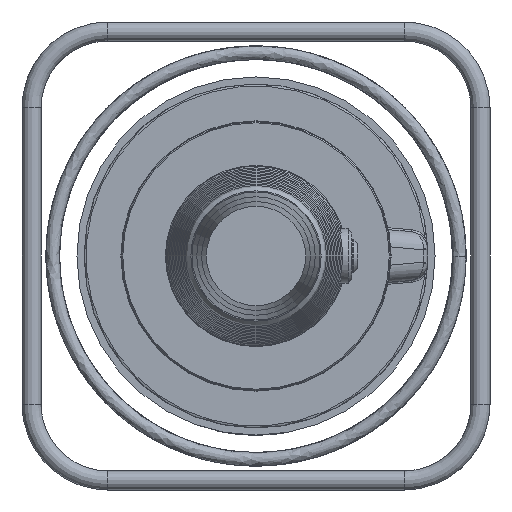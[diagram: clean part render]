
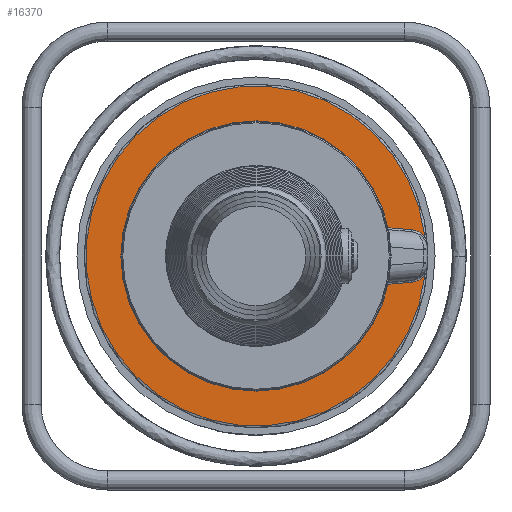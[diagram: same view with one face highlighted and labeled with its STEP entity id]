
A CAD part, left-side view. The second image highlights one B-rep face of the part: STEP entity #16370.
In plain terms, the highlighted planar face has unit normal (-1, 0, 0).
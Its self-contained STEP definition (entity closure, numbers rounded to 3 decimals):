
#1542=PLANE('',#17258);
#2444=LINE('',#36909,#3348);
#2445=LINE('',#36916,#3349);
#3348=VECTOR('',#19896,49.309);
#3349=VECTOR('',#19903,49.309);
#4496=FACE_OUTER_BOUND('',#5578,.T.);
#5578=EDGE_LOOP('',(#14309,#14310,#14311,#14312,#14313,#14314,#14315,#14316));
#6364=CIRCLE('',#17259,21.);
#6365=CIRCLE('',#17260,178.);
#6366=CIRCLE('',#17261,21.);
#6367=CIRCLE('',#17262,8.);
#6368=CIRCLE('',#17263,113.);
#6369=CIRCLE('',#17264,8.);
#7936=VERTEX_POINT('',#36901);
#7937=VERTEX_POINT('',#36902);
#7938=VERTEX_POINT('',#36904);
#7939=VERTEX_POINT('',#36906);
#7940=VERTEX_POINT('',#36908);
#7941=VERTEX_POINT('',#36910);
#7942=VERTEX_POINT('',#36912);
#7943=VERTEX_POINT('',#36914);
#10146=EDGE_CURVE('',#7936,#7937,#6364,.T.);
#10147=EDGE_CURVE('',#7938,#7936,#6365,.T.);
#10148=EDGE_CURVE('',#7939,#7938,#6366,.T.);
#10149=EDGE_CURVE('',#7940,#7939,#2444,.T.);
#10150=EDGE_CURVE('',#7941,#7940,#6367,.T.);
#10151=EDGE_CURVE('',#7942,#7941,#6368,.T.);
#10152=EDGE_CURVE('',#7943,#7942,#6369,.T.);
#10153=EDGE_CURVE('',#7937,#7943,#2445,.T.);
#14309=ORIENTED_EDGE('',*,*,#10146,.F.);
#14310=ORIENTED_EDGE('',*,*,#10147,.F.);
#14311=ORIENTED_EDGE('',*,*,#10148,.F.);
#14312=ORIENTED_EDGE('',*,*,#10149,.F.);
#14313=ORIENTED_EDGE('',*,*,#10150,.F.);
#14314=ORIENTED_EDGE('',*,*,#10151,.F.);
#14315=ORIENTED_EDGE('',*,*,#10152,.F.);
#14316=ORIENTED_EDGE('',*,*,#10153,.F.);
#16370=ADVANCED_FACE('',(#4496),#1542,.T.);
#17258=AXIS2_PLACEMENT_3D('',#36900,#19888,#19889);
#17259=AXIS2_PLACEMENT_3D('',#36903,#19890,#19891);
#17260=AXIS2_PLACEMENT_3D('',#36905,#19892,#19893);
#17261=AXIS2_PLACEMENT_3D('',#36907,#19894,#19895);
#17262=AXIS2_PLACEMENT_3D('',#36911,#19897,#19898);
#17263=AXIS2_PLACEMENT_3D('',#36913,#19899,#19900);
#17264=AXIS2_PLACEMENT_3D('',#36915,#19901,#19902);
#19888=DIRECTION('center_axis',(-1.,0.,0.));
#19889=DIRECTION('ref_axis',(0.,0.,-1.));
#19890=DIRECTION('center_axis',(-1.,0.,0.));
#19891=DIRECTION('ref_axis',(0.,-0.535,0.845));
#19892=DIRECTION('center_axis',(1.,0.,0.));
#19893=DIRECTION('ref_axis',(0.,1.,0.));
#19894=DIRECTION('center_axis',(-1.,0.,0.));
#19895=DIRECTION('ref_axis',(0.,-0.535,-0.845));
#19896=DIRECTION('',(0.,-0.996,0.087));
#19897=DIRECTION('center_axis',(1.,0.,0.));
#19898=DIRECTION('ref_axis',(0.,0.614,0.789));
#19899=DIRECTION('center_axis',(-1.,0.,0.));
#19900=DIRECTION('ref_axis',(0.,1.,0.));
#19901=DIRECTION('center_axis',(1.,0.,0.));
#19902=DIRECTION('ref_axis',(0.,0.614,-0.789));
#19903=DIRECTION('',(0.,0.996,0.087));
#36900=CARTESIAN_POINT('Origin',(-150.,179.,0.));
#36901=CARTESIAN_POINT('',(-150.,-176.847,20.223));
#36902=CARTESIAN_POINT('',(-150.,-162.695,27.522));
#36903=CARTESIAN_POINT('Origin',(-150.,-160.865,6.602));
#36904=CARTESIAN_POINT('',(-150.,-176.847,-20.223));
#36905=CARTESIAN_POINT('Origin',(-150.,0.,
0.));
#36906=CARTESIAN_POINT('',(-150.,-162.695,-27.522));
#36907=CARTESIAN_POINT('Origin',(-150.,-160.865,-6.602));
#36908=CARTESIAN_POINT('',(-150.,-113.574,-31.819));
#36909=CARTESIAN_POINT('',(-150.,20.898,-43.584));
#36910=CARTESIAN_POINT('',(-150.,-106.716,-37.158));
#36911=CARTESIAN_POINT('Origin',(-150.,-114.271,-39.789));
#36912=CARTESIAN_POINT('',(-150.,-106.716,37.158));
#36913=CARTESIAN_POINT('Origin',(-150.,0.,
0.));
#36914=CARTESIAN_POINT('',(-150.,-113.574,31.819));
#36915=CARTESIAN_POINT('Origin',(-150.,-114.271,39.789));
#36916=CARTESIAN_POINT('',(-150.,20.898,43.584));
